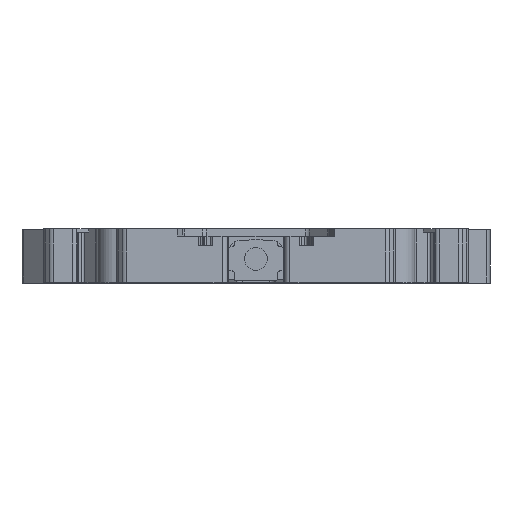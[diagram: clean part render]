
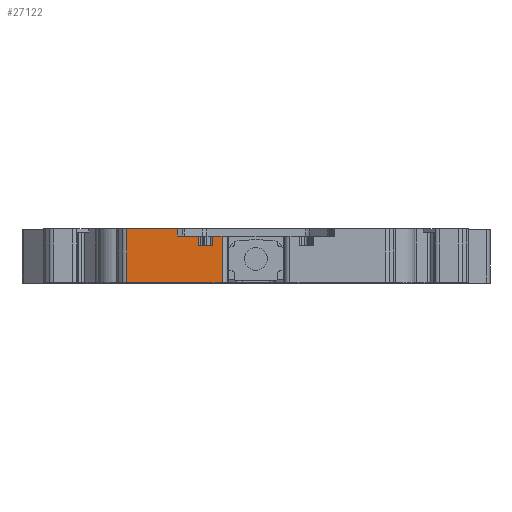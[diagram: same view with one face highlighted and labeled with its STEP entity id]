
A CAD part, top view. The second image highlights one B-rep face of the part: STEP entity #27122.
In plain terms, the highlighted planar face has unit normal (0, 0, 1).
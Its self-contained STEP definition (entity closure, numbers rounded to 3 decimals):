
#420=PLANE('',#28703);
#999=LINE('',#36497,#3082);
#1001=LINE('',#36501,#3084);
#1004=LINE('',#36507,#3087);
#1006=LINE('',#36511,#3089);
#1095=LINE('',#36973,#3178);
#1653=LINE('',#38515,#3736);
#1654=LINE('',#38516,#3737);
#1932=LINE('',#39278,#4015);
#1933=LINE('',#39280,#4016);
#1934=LINE('',#39282,#4017);
#3082=VECTOR('',#30395,1000.);
#3084=VECTOR('',#30399,1000.);
#3087=VECTOR('',#30404,1000.);
#3089=VECTOR('',#30408,1000.);
#3178=VECTOR('',#30701,1000.);
#3736=VECTOR('',#32029,1000.);
#3737=VECTOR('',#32030,1000.);
#4015=VECTOR('',#32874,1000.);
#4016=VECTOR('',#32877,1000.);
#4017=VECTOR('',#32878,1000.);
#8868=ORIENTED_EDGE('',*,*,#12531,.T.);
#8869=ORIENTED_EDGE('',*,*,#12529,.T.);
#8870=ORIENTED_EDGE('',*,*,#12526,.T.);
#8871=ORIENTED_EDGE('',*,*,#13444,.F.);
#8872=ORIENTED_EDGE('',*,*,#12524,.T.);
#8873=ORIENTED_EDGE('',*,*,#12698,.T.);
#8874=ORIENTED_EDGE('',*,*,#13827,.T.);
#8875=ORIENTED_EDGE('',*,*,#13828,.F.);
#8876=ORIENTED_EDGE('',*,*,#13829,.F.);
#8877=ORIENTED_EDGE('',*,*,#13445,.F.);
#12524=EDGE_CURVE('',#15376,#15375,#999,.T.);
#12526=EDGE_CURVE('',#15377,#15378,#1001,.T.);
#12529=EDGE_CURVE('',#15379,#15377,#1004,.T.);
#12531=EDGE_CURVE('',#15380,#15379,#1006,.T.);
#12698=EDGE_CURVE('',#15375,#15519,#1095,.T.);
#13444=EDGE_CURVE('',#15376,#15378,#1653,.T.);
#13445=EDGE_CURVE('',#15380,#16077,#1654,.T.);
#13827=EDGE_CURVE('',#15519,#16277,#1932,.T.);
#13828=EDGE_CURVE('',#16278,#16277,#1933,.T.);
#13829=EDGE_CURVE('',#16077,#16278,#1934,.T.);
#15375=VERTEX_POINT('',#36496);
#15376=VERTEX_POINT('',#36498);
#15377=VERTEX_POINT('',#36502);
#15378=VERTEX_POINT('',#36503);
#15379=VERTEX_POINT('',#36508);
#15380=VERTEX_POINT('',#36512);
#15519=VERTEX_POINT('',#36972);
#16077=VERTEX_POINT('',#38517);
#16277=VERTEX_POINT('',#39277);
#16278=VERTEX_POINT('',#39281);
#17648=EDGE_LOOP('',(#8868,#8869,#8870,#8871,#8872,#8873,#8874,#8875,#8876,
#8877));
#18727=FACE_BOUND('',#17648,.T.);
#27122=ADVANCED_FACE('',(#18727),#420,.T.);
#28703=AXIS2_PLACEMENT_3D('',#39279,#32875,#32876);
#30395=DIRECTION('',(0.,1.,0.));
#30399=DIRECTION('',(0.,1.,0.));
#30404=DIRECTION('',(-1.,0.,0.));
#30408=DIRECTION('',(0.,-1.,0.));
#30701=DIRECTION('',(-1.,0.,0.));
#32029=DIRECTION('',(1.,0.,0.));
#32030=DIRECTION('',(1.,0.,0.));
#32874=DIRECTION('',(0.,-1.,0.));
#32875=DIRECTION('',(0.,0.,1.));
#32876=DIRECTION('',(1.,0.,0.));
#32877=DIRECTION('',(-1.,0.,0.));
#32878=DIRECTION('',(0.,-1.,0.));
#36496=CARTESIAN_POINT('',(-24.595,4.95,38.7));
#36497=CARTESIAN_POINT('',(-24.595,4.27,38.7));
#36498=CARTESIAN_POINT('',(-24.595,4.27,38.7));
#36501=CARTESIAN_POINT('',(-22.603,4.95,38.7));
#36502=CARTESIAN_POINT('',(-22.603,3.37,38.7));
#36503=CARTESIAN_POINT('',(-22.603,4.27,38.7));
#36507=CARTESIAN_POINT('',(-20.47,3.37,38.7));
#36508=CARTESIAN_POINT('',(-21.353,3.37,38.7));
#36511=CARTESIAN_POINT('',(-21.353,3.37,38.7));
#36512=CARTESIAN_POINT('',(-21.353,4.27,38.7));
#36972=CARTESIAN_POINT('',(-29.243,4.95,38.7));
#36973=CARTESIAN_POINT('',(-20.47,4.95,38.7));
#38515=CARTESIAN_POINT('',(-24.595,4.27,38.7));
#38516=CARTESIAN_POINT('',(-24.595,4.27,38.7));
#38517=CARTESIAN_POINT('',(-20.47,4.27,38.7));
#39277=CARTESIAN_POINT('',(-29.243,0.,38.7));
#39278=CARTESIAN_POINT('',(-29.243,4.95,38.7));
#39279=CARTESIAN_POINT('',(-20.47,4.95,38.7));
#39280=CARTESIAN_POINT('',(-20.47,0.,38.7));
#39281=CARTESIAN_POINT('',(-20.47,0.,38.7));
#39282=CARTESIAN_POINT('',(-20.47,4.95,38.7));
